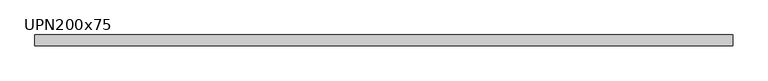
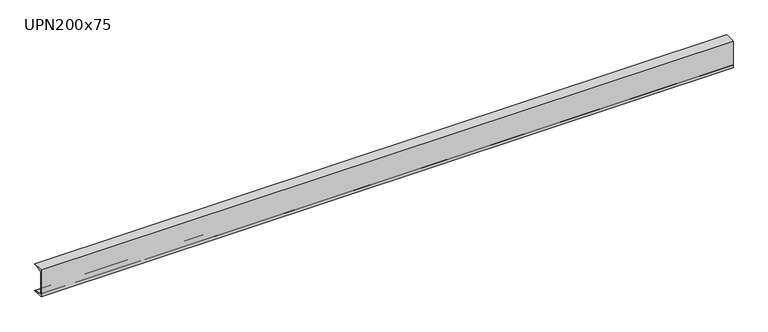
"""IFC4 building model written with IfcOpenShell, lengths in millimetres: beam geometry, M_MC Shapes : UPN200x75."""

from ifc_helpers import new_model, si_unit, point, frame, frame_2d, origin, place, context, project, spatial, polyline, circle_curve, trimmed, segment, composite_curve, outline, extrude, source, transform, mapped, element, save


def upn200x75_c57adbb2(model_context):
    return source(origin(), model_context, "Body", "SweptSolid", [
        extrude(outline(composite_curve([segment(polyline([(-10.9, 100.0), (64.1, 100.0), (64.1, 99.0253247)]), True, "CONTINUOUS"), segment(trimmed(circle_curve(frame_2d((60.15, 99.0253247)), 3.95), [point((64.1, 99.0253247))], [point((60.7993773, 95.1290689))], False, "CARTESIAN"), True, "CONTINUOUS"), segment(polyline([(60.7993773, 95.1290689), (0.2512455, 85.0376935)]), True, "CONTINUOUS"), segment(trimmed(circle_curve(frame_2d((1.55, 77.2451819)), 7.9), [point((0.2512455, 85.0376935))], [point((-6.35, 77.2451819))], True, "CARTESIAN"), True, "CONTINUOUS"), segment(polyline([(-6.35, 77.2451819), (-6.35, -77.2451819)]), True, "CONTINUOUS"), segment(trimmed(circle_curve(frame_2d((1.55, -77.2451819)), 7.9), [point((-6.35, -77.2451819))], [point((0.2512455, -85.0376935))], True, "CARTESIAN"), True, "CONTINUOUS"), segment(polyline([(0.2512455, -85.0376935), (60.7993773, -95.1290689)]), True, "CONTINUOUS"), segment(trimmed(circle_curve(frame_2d((60.15, -99.0253247)), 3.95), [point((60.7993773, -95.1290689))], [point((64.1, -99.0253247))], False, "CARTESIAN"), True, "CONTINUOUS"), segment(polyline([(64.1, -99.0253247), (64.1, -100.0), (-10.9, -100.0), (-10.9, 100.0)]), True, "CONTINUOUS")], self_intersect=False)), frame((-2430.75, 0.0, 0.0), z_axis=(1.0, 0.0, 0.0), x_axis=(0.0, 1.0, 0.0)), (0.0, 0.0, 1.0), 4861.5),
    ])


if __name__ == "__main__":
    model = new_model("IFC4")
    model_context = context("Model", 3, world=origin())
    ifc_project = project(units=[si_unit("LENGTHUNIT", "METRE", prefix="MILLI")], contexts=[model_context])
    site = spatial("IfcSite", under=ifc_project)
    building = spatial("IfcBuilding", under=site)
    placement = place(None, origin())
    upn200x75_shape = upn200x75_c57adbb2(model_context)
    element("IfcBeam", 1, ObjectType="M_MC Shapes : UPN200x75", at=placement, inside=building, context=model_context, shape_type="MappedRepresentation", body=[
        mapped(upn200x75_shape, transform((0.0, 0.0, 0.0), x_axis=(1.0, 0.0, 0.0), y_axis=(0.0, 1.0, 0.0), z_axis=(0.0, 0.0, 1.0))),
    ])
    save(model, "model.ifc")
